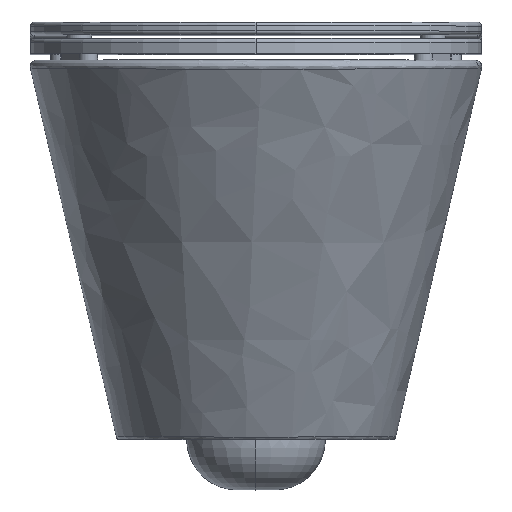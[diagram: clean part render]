
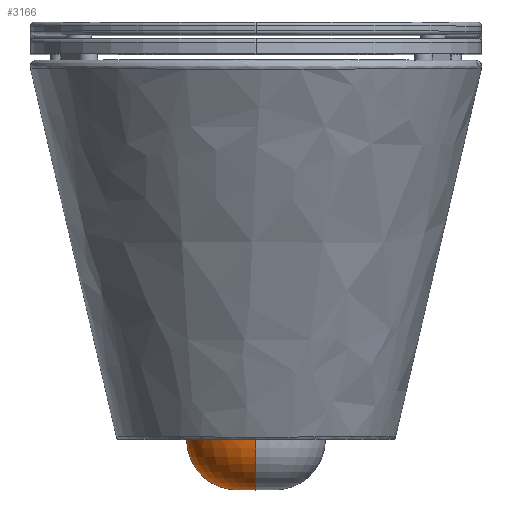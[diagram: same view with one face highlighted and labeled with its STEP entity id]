
A CAD part, top view. The second image highlights one B-rep face of the part: STEP entity #3166.
In plain terms, the highlighted toroidal (fillet/blend) face has major radius 15 mm and minor radius 40 mm.
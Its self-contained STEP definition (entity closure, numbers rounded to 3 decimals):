
#122 = DIRECTION ( 'NONE',  ( 0., -1., 0. ) ) ;
#384 = DIRECTION ( 'NONE',  ( 0., 0., -1. ) ) ;
#538 = EDGE_CURVE ( 'NONE', #2699, #2893, #4190, .T. ) ;
#601 = CIRCLE ( 'NONE', #5078, 15. ) ;
#1394 = AXIS2_PLACEMENT_3D ( 'NONE', #3508, #3075, #3929 ) ;
#1462 = CARTESIAN_POINT ( 'NONE',  ( 0., -300., 265.001 ) ) ;
#1645 = CARTESIAN_POINT ( 'NONE',  ( -15., -300., 265.001 ) ) ;
#1694 = AXIS2_PLACEMENT_3D ( 'NONE', #5490, #2951, #384 ) ;
#1695 = CARTESIAN_POINT ( 'NONE',  ( -15., -340., 265.001 ) ) ;
#1900 = DIRECTION ( 'NONE',  ( 0., 0., 1. ) ) ;
#1970 = EDGE_CURVE ( 'NONE', #3524, #4395, #601, .T. ) ;
#2074 = DIRECTION ( 'NONE',  ( 1., 0., 0. ) ) ;
#2288 = EDGE_CURVE ( 'NONE', #2893, #3524, #3806, .T. ) ;
#2583 = FACE_OUTER_BOUND ( 'NONE', #3899, .T. ) ;
#2680 = CARTESIAN_POINT ( 'NONE',  ( 0., -340., 265.001 ) ) ;
#2699 = VERTEX_POINT ( 'NONE', #5025 ) ;
#2706 = TOROIDAL_SURFACE ( 'NONE', #1394, 15., 40. ) ;
#2893 = VERTEX_POINT ( 'NONE', #2961 ) ;
#2951 = DIRECTION ( 'NONE',  ( 1., 0., 0. ) ) ;
#2961 = CARTESIAN_POINT ( 'NONE',  ( 0., -300., 320.001 ) ) ;
#3075 = DIRECTION ( 'NONE',  ( 0., -1., 0. ) ) ;
#3113 = DIRECTION ( 'NONE',  ( 0., 0., -1. ) ) ;
#3166 = ADVANCED_FACE ( 'NONE', ( #2583 ), #2706, .T. ) ;
#3378 = AXIS2_PLACEMENT_3D ( 'NONE', #1462, #4439, #1900 ) ;
#3508 = CARTESIAN_POINT ( 'NONE',  ( 0., -300., 265.001 ) ) ;
#3524 = VERTEX_POINT ( 'NONE', #4304 ) ;
#3806 = CIRCLE ( 'NONE', #1694, 40. ) ;
#3899 = EDGE_LOOP ( 'NONE', ( #4659, #4328, #4661, #5118 ) ) ;
#3929 = DIRECTION ( 'NONE',  ( 0., 0., -1. ) ) ;
#4023 = AXIS2_PLACEMENT_3D ( 'NONE', #1645, #4606, #2074 ) ;
#4190 = CIRCLE ( 'NONE', #3378, 55. ) ;
#4304 = CARTESIAN_POINT ( 'NONE',  ( 0., -340., 280.001 ) ) ;
#4328 = ORIENTED_EDGE ( 'NONE', *, *, #1970, .F. ) ;
#4395 = VERTEX_POINT ( 'NONE', #1695 ) ;
#4439 = DIRECTION ( 'NONE',  ( 0., 1., 0. ) ) ;
#4606 = DIRECTION ( 'NONE',  ( 0., 0., 1. ) ) ;
#4659 = ORIENTED_EDGE ( 'NONE', *, *, #5075, .T. ) ;
#4661 = ORIENTED_EDGE ( 'NONE', *, *, #2288, .F. ) ;
#5025 = CARTESIAN_POINT ( 'NONE',  ( -55., -300., 265.001 ) ) ;
#5075 = EDGE_CURVE ( 'NONE', #2699, #4395, #5103, .T. ) ;
#5078 = AXIS2_PLACEMENT_3D ( 'NONE', #2680, #122, #3113 ) ;
#5103 = CIRCLE ( 'NONE', #4023, 40. ) ;
#5118 = ORIENTED_EDGE ( 'NONE', *, *, #538, .F. ) ;
#5490 = CARTESIAN_POINT ( 'NONE',  ( 0., -300., 280.001 ) ) ;
